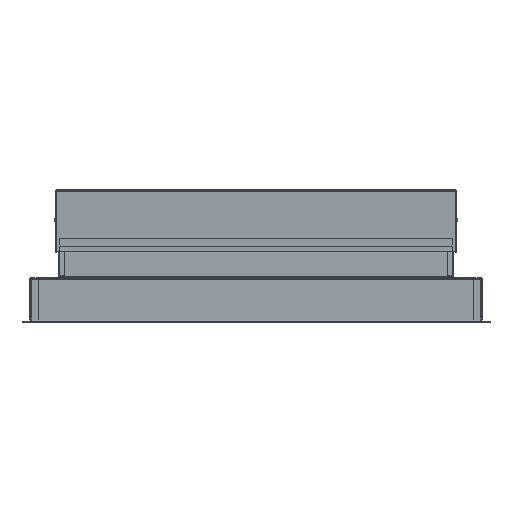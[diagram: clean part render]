
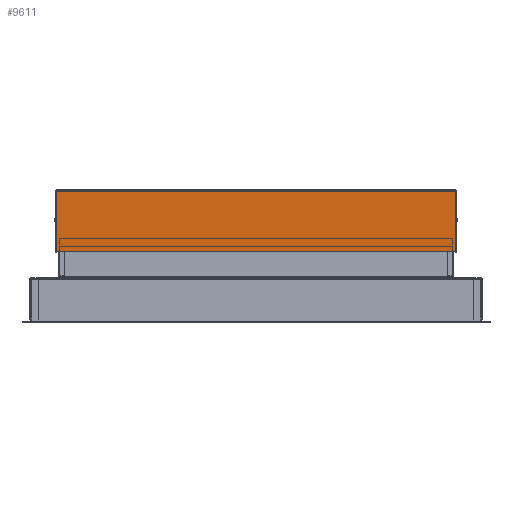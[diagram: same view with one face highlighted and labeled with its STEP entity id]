
A CAD part, front view. The second image highlights one B-rep face of the part: STEP entity #9611.
In plain terms, the highlighted planar face has unit normal (0, -0.999, -0.039) as drawn and (0, -1, 0) by its records, which use the part's own axes.
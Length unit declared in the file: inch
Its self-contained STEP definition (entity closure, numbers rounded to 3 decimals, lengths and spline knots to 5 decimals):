
#9 = EDGE_CURVE ( 'NONE', #14853, #18810, #6328, .T. ) ;
#33 = AXIS2_PLACEMENT_3D ( 'NONE', #11291, #17642, #3383 ) ;
#104 = VECTOR ( 'NONE', #2565, 39.37008 ) ;
#211 = VECTOR ( 'NONE', #1895, 39.37008 ) ;
#752 = LINE ( 'NONE', #7499, #16044 ) ;
#841 = LINE ( 'NONE', #10596, #14108 ) ;
#1407 = LINE ( 'NONE', #17431, #17247 ) ;
#1511 = DIRECTION ( 'NONE',  ( 0., 0., -1. ) ) ;
#1895 = DIRECTION ( 'NONE',  ( -1., 0., 0. ) ) ;
#2565 = DIRECTION ( 'NONE',  ( 0., 0., -1. ) ) ;
#2697 = ORIENTED_EDGE ( 'NONE', *, *, #9, .T. ) ;
#3138 = CARTESIAN_POINT ( 'NONE',  ( 1.74508, -0.422, 17.97663 ) ) ;
#3383 = DIRECTION ( 'NONE',  ( 1., 0., 0. ) ) ;
#3483 = ORIENTED_EDGE ( 'NONE', *, *, #7357, .T. ) ;
#3540 = ORIENTED_EDGE ( 'NONE', *, *, #20542, .T. ) ;
#3553 = CARTESIAN_POINT ( 'NONE',  ( 7.23951, -0.422, 18.00013 ) ) ;
#4090 = ORIENTED_EDGE ( 'NONE', *, *, #20145, .T. ) ;
#4953 = PLANE ( 'NONE',  #33 ) ;
#5199 = VECTOR ( 'NONE', #14331, 39.37008 ) ;
#5248 = LINE ( 'NONE', #13132, #18233 ) ;
#5313 = VERTEX_POINT ( 'NONE', #14247 ) ;
#5330 = VERTEX_POINT ( 'NONE', #3138 ) ;
#5644 = CARTESIAN_POINT ( 'NONE',  ( 7.23951, -0.422, 18.00013 ) ) ;
#6328 = LINE ( 'NONE', #7987, #14583 ) ;
#6339 = ORIENTED_EDGE ( 'NONE', *, *, #13171, .F. ) ;
#6509 = FACE_OUTER_BOUND ( 'NONE', #9033, .T. ) ;
#7018 = DIRECTION ( 'NONE',  ( 1., 0., 0. ) ) ;
#7357 = EDGE_CURVE ( 'NONE', #18810, #5313, #5248, .T. ) ;
#7449 = LINE ( 'NONE', #13782, #104 ) ;
#7499 = CARTESIAN_POINT ( 'NONE',  ( 7.23951, -0.422, -17.97663 ) ) ;
#7983 = ORIENTED_EDGE ( 'NONE', *, *, #19555, .T. ) ;
#7987 = CARTESIAN_POINT ( 'NONE',  ( 1.75751, -0.422, 18.047 ) ) ;
#8001 = LINE ( 'NONE', #10829, #5199 ) ;
#9033 = EDGE_LOOP ( 'NONE', ( #3540, #11347, #20471, #2697, #3483, #6339, #4090, #7983 ) ) ;
#9611 = ADVANCED_FACE ( 'NONE', ( #6509 ), #4953, .T. ) ;
#10505 = CARTESIAN_POINT ( 'NONE',  ( 1.74508, -0.422, -17.97663 ) ) ;
#10596 = CARTESIAN_POINT ( 'NONE',  ( 1.75751, -0.422, 18.047 ) ) ;
#10829 = CARTESIAN_POINT ( 'NONE',  ( 7.23951, -0.422, 17.97663 ) ) ;
#11291 = CARTESIAN_POINT ( 'NONE',  ( 7.23951, -0.422, 18.047 ) ) ;
#11347 = ORIENTED_EDGE ( 'NONE', *, *, #12108, .T. ) ;
#11445 = VERTEX_POINT ( 'NONE', #20000 ) ;
#12057 = DIRECTION ( 'NONE',  ( 0., 0., -1. ) ) ;
#12108 = EDGE_CURVE ( 'NONE', #5330, #15924, #7449, .T. ) ;
#12865 = CARTESIAN_POINT ( 'NONE',  ( 1.75751, -0.422, -17.97663 ) ) ;
#13130 = CARTESIAN_POINT ( 'NONE',  ( 1.75751, -0.422, -18.00013 ) ) ;
#13132 = CARTESIAN_POINT ( 'NONE',  ( 1.75751, -0.422, -18.00013 ) ) ;
#13171 = EDGE_CURVE ( 'NONE', #20231, #5313, #1407, .T. ) ;
#13368 = VERTEX_POINT ( 'NONE', #17733 ) ;
#13782 = CARTESIAN_POINT ( 'NONE',  ( 1.74508, -0.422, 17.97663 ) ) ;
#14108 = VECTOR ( 'NONE', #12057, 39.37008 ) ;
#14247 = CARTESIAN_POINT ( 'NONE',  ( 7.23951, -0.422, -18.00013 ) ) ;
#14331 = DIRECTION ( 'NONE',  ( -1., 0., 0. ) ) ;
#14583 = VECTOR ( 'NONE', #15893, 39.37008 ) ;
#14853 = VERTEX_POINT ( 'NONE', #12865 ) ;
#15893 = DIRECTION ( 'NONE',  ( 0., 0., -1. ) ) ;
#15924 = VERTEX_POINT ( 'NONE', #10505 ) ;
#16044 = VECTOR ( 'NONE', #16775, 39.37008 ) ;
#16775 = DIRECTION ( 'NONE',  ( 1., 0., 0. ) ) ;
#17247 = VECTOR ( 'NONE', #1511, 39.37008 ) ;
#17431 = CARTESIAN_POINT ( 'NONE',  ( 7.23951, -0.422, 18.047 ) ) ;
#17642 = DIRECTION ( 'NONE',  ( 0., -1., 0. ) ) ;
#17733 = CARTESIAN_POINT ( 'NONE',  ( 1.75751, -0.422, 17.97663 ) ) ;
#18074 = EDGE_CURVE ( 'NONE', #15924, #14853, #752, .T. ) ;
#18127 = LINE ( 'NONE', #3553, #211 ) ;
#18233 = VECTOR ( 'NONE', #7018, 39.37008 ) ;
#18810 = VERTEX_POINT ( 'NONE', #13130 ) ;
#19555 = EDGE_CURVE ( 'NONE', #11445, #13368, #841, .T. ) ;
#20000 = CARTESIAN_POINT ( 'NONE',  ( 1.75751, -0.422, 18.00013 ) ) ;
#20145 = EDGE_CURVE ( 'NONE', #20231, #11445, #18127, .T. ) ;
#20231 = VERTEX_POINT ( 'NONE', #5644 ) ;
#20471 = ORIENTED_EDGE ( 'NONE', *, *, #18074, .T. ) ;
#20542 = EDGE_CURVE ( 'NONE', #13368, #5330, #8001, .T. ) ;
